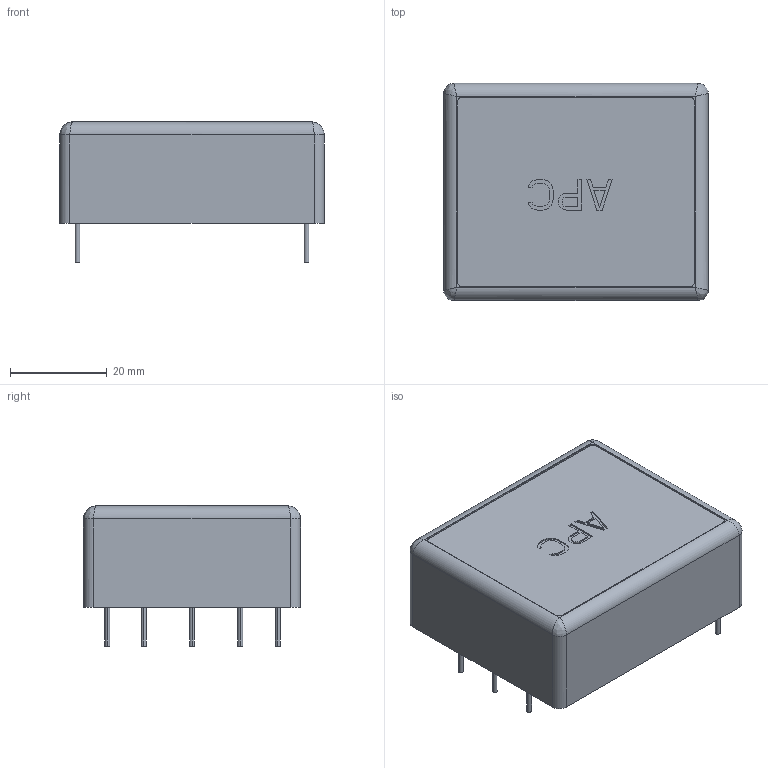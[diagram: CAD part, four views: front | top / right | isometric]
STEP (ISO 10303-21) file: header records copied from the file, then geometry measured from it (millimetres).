
FILE_DESCRIPTION((''),'2;1');
FILE_NAME('APC','2016-02-02T',('arch'),(''),'PRO/ENGINEER BY PARAMETRIC TECHNOLOGY CORPORATION, 2008380','PRO/ENGINEER BY PARAMETRIC TECHNOLOGY CORPORATION, 2008380','');
FILE_SCHEMA(('AUTOMOTIVE_DESIGN { 1 2 10303 214 0 1 1 1 }'));
Length unit declared in the file: millimetre
Products named in the file (1): APC
Bounding box: 54.7 x 44.9 x 29 mm (x, y, z)
Volume: 50648.4 mm3; surface area: 9012.3 mm2
Topology: 1 solids, 1 shells, 125 faces, 321 edges, 210 vertices
Faces by surface type: plane 97, cylinder 24, bspline 4
Entity records: 4053 total; most frequent: CARTESIAN_POINT 937, ORIENTED_EDGE 642, DIRECTION 587, EDGE_CURVE 321, VECTOR 273, LINE 273, VERTEX_POINT 210, AXIS2_PLACEMENT_3D 157
